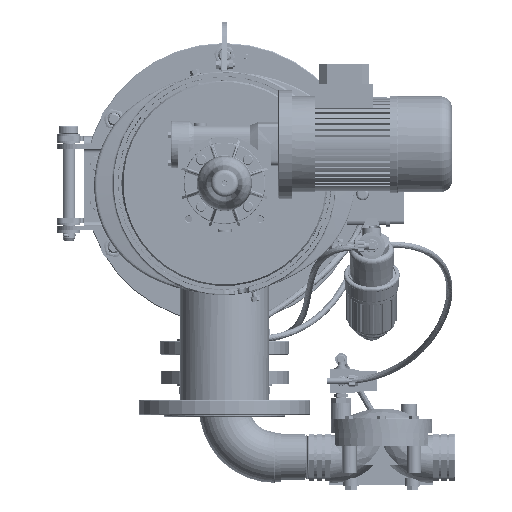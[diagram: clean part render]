
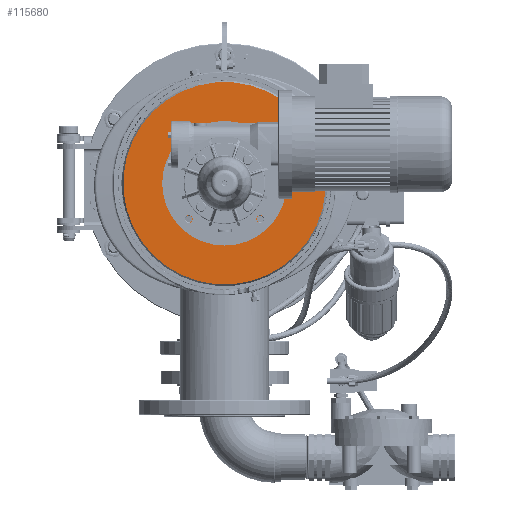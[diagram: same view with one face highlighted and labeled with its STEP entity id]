
A CAD part, left-side view. The second image highlights one B-rep face of the part: STEP entity #115680.
In plain terms, the highlighted planar face has unit normal (-1, 0, 0).
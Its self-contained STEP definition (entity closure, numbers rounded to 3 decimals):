
#1802 = DIRECTION ( 'NONE',  ( 1., 0., 0. ) ) ;
#24079 = CARTESIAN_POINT ( 'NONE',  ( -711.477, -43.195, 62.688 ) ) ;
#24583 = AXIS2_PLACEMENT_3D ( 'NONE', #297963, #313129, #473153 ) ;
#36010 = EDGE_CURVE ( 'NONE', #568687, #568687, #547819, .T. ) ;
#64370 = ORIENTED_EDGE ( 'NONE', *, *, #36010, .T. ) ;
#68257 = DIRECTION ( 'NONE',  ( 1., 0., 0. ) ) ;
#89549 = CIRCLE ( 'NONE', #1012609, 3.75 ) ;
#104955 = EDGE_LOOP ( 'NONE', ( #177095 ) ) ;
#115603 = CARTESIAN_POINT ( 'NONE',  ( -711.477, 74.361, -8.907 ) ) ;
#115680 = ADVANCED_FACE ( 'NONE', ( #143094, #1020209, #617846, #545345, #767652, #390537, #628001, #308077, #158265 ), #375314, .F. ) ;
#115930 = DIRECTION ( 'NONE',  ( 0., -0.707, 0.707 ) ) ;
#123875 = EDGE_LOOP ( 'NONE', ( #781165 ) ) ;
#143094 = FACE_BOUND ( 'NONE', #647652, .T. ) ;
#143955 = CARTESIAN_POINT ( 'NONE',  ( -711.477, -63.524, 128.979 ) ) ;
#151075 = CIRCLE ( 'NONE', #200444, 4.75 ) ;
#158265 = FACE_OUTER_BOUND ( 'NONE', #892472, .T. ) ;
#160586 = ORIENTED_EDGE ( 'NONE', *, *, #770572, .T. ) ;
#172441 = EDGE_CURVE ( 'NONE', #267711, #267711, #151075, .T. ) ;
#177095 = ORIENTED_EDGE ( 'NONE', *, *, #666247, .F. ) ;
#178698 = VERTEX_POINT ( 'NONE', #24079 ) ;
#190912 = AXIS2_PLACEMENT_3D ( 'NONE', #972266, #899945, #585136 ) ;
#200444 = AXIS2_PLACEMENT_3D ( 'NONE', #143955, #773606, #861170 ) ;
#251606 = CARTESIAN_POINT ( 'NONE',  ( -711.477, -28.626, 117.061 ) ) ;
#260228 = VERTEX_POINT ( 'NONE', #115603 ) ;
#267711 = VERTEX_POINT ( 'NONE', #504897 ) ;
#275173 = DIRECTION ( 'NONE',  ( -1., 0., 0. ) ) ;
#275786 = DIRECTION ( 'NONE',  ( 1., 0., 0. ) ) ;
#280579 = CARTESIAN_POINT ( 'NONE',  ( -711.477, -66.883, 40.414 ) ) ;
#285880 = AXIS2_PLACEMENT_3D ( 'NONE', #819038, #566305, #421633 ) ;
#297963 = CARTESIAN_POINT ( 'NONE',  ( -711.477, -109.486, -8.907 ) ) ;
#308077 = FACE_BOUND ( 'NONE', #104955, .T. ) ;
#311634 = EDGE_CURVE ( 'NONE', #968547, #968547, #942425, .T. ) ;
#312680 = EDGE_LOOP ( 'NONE', ( #865627 ) ) ;
#313129 = DIRECTION ( 'NONE',  ( 1., 0., 0. ) ) ;
#334231 = AXIS2_PLACEMENT_3D ( 'NONE', #837434, #275173, #919985 ) ;
#370414 = ORIENTED_EDGE ( 'NONE', *, *, #482810, .T. ) ;
#371507 = EDGE_CURVE ( 'NONE', #905128, #905128, #499891, .T. ) ;
#375314 = PLANE ( 'NONE',  #24583 ) ;
#383290 = DIRECTION ( 'NONE',  ( 0., -0.707, 0.707 ) ) ;
#390537 = FACE_BOUND ( 'NONE', #411876, .T. ) ;
#411876 = EDGE_LOOP ( 'NONE', ( #1020766 ) ) ;
#421633 = DIRECTION ( 'NONE',  ( 0., 0.707, -0.707 ) ) ;
#454724 = EDGE_LOOP ( 'NONE', ( #816250 ) ) ;
#455759 = CARTESIAN_POINT ( 'NONE',  ( -711.477, -40.543, 60.036 ) ) ;
#473153 = DIRECTION ( 'NONE',  ( 0., -0.707, 0.707 ) ) ;
#480003 = VERTEX_POINT ( 'NONE', #634901 ) ;
#482810 = EDGE_CURVE ( 'NONE', #260228, #260228, #779253, .T. ) ;
#494004 = VERTEX_POINT ( 'NONE', #251606 ) ;
#496397 = DIRECTION ( 'NONE',  ( 1., 0., 0. ) ) ;
#499891 = CIRCLE ( 'NONE', #714393, 4.75 ) ;
#504040 = CIRCLE ( 'NONE', #190912, 4.75 ) ;
#504897 = CARTESIAN_POINT ( 'NONE',  ( -711.477, -66.883, 132.338 ) ) ;
#545345 = FACE_BOUND ( 'NONE', #683511, .T. ) ;
#547819 = CIRCLE ( 'NONE', #679915, 3.75 ) ;
#566049 = CARTESIAN_POINT ( 'NONE',  ( -711.477, 25.041, 40.414 ) ) ;
#566305 = DIRECTION ( 'NONE',  ( -1., 0., 0. ) ) ;
#568687 = VERTEX_POINT ( 'NONE', #893648 ) ;
#573843 = DIRECTION ( 'NONE',  ( 0., -0.707, 0.707 ) ) ;
#585136 = DIRECTION ( 'NONE',  ( 0., -0.707, 0.707 ) ) ;
#585529 = CARTESIAN_POINT ( 'NONE',  ( -711.477, 25.041, 132.338 ) ) ;
#617846 = FACE_BOUND ( 'NONE', #123875, .T. ) ;
#628001 = FACE_BOUND ( 'NONE', #312680, .T. ) ;
#629308 = AXIS2_PLACEMENT_3D ( 'NONE', #811260, #496397, #573843 ) ;
#634901 = CARTESIAN_POINT ( 'NONE',  ( -711.477, 0.822, 64.632 ) ) ;
#647652 = EDGE_LOOP ( 'NONE', ( #160586 ) ) ;
#659705 = CIRCLE ( 'NONE', #824743, 3.75 ) ;
#666247 = EDGE_CURVE ( 'NONE', #480003, #480003, #929015, .T. ) ;
#679915 = AXIS2_PLACEMENT_3D ( 'NONE', #806458, #1802, #713845 ) ;
#683511 = EDGE_LOOP ( 'NONE', ( #64370 ) ) ;
#687692 = DIRECTION ( 'NONE',  ( 0., -0.707, 0.707 ) ) ;
#713845 = DIRECTION ( 'NONE',  ( 0., -0.707, 0.707 ) ) ;
#714393 = AXIS2_PLACEMENT_3D ( 'NONE', #997321, #68257, #687692 ) ;
#717619 = EDGE_CURVE ( 'NONE', #494004, #494004, #89549, .T. ) ;
#760590 = CARTESIAN_POINT ( 'NONE',  ( -711.477, -25.974, 114.41 ) ) ;
#760643 = VERTEX_POINT ( 'NONE', #585529 ) ;
#767652 = FACE_BOUND ( 'NONE', #964856, .T. ) ;
#770535 = DIRECTION ( 'NONE',  ( 1., 0., 0. ) ) ;
#770572 = EDGE_CURVE ( 'NONE', #760643, #760643, #504040, .T. ) ;
#773606 = DIRECTION ( 'NONE',  ( 1., 0., 0. ) ) ;
#779253 = CIRCLE ( 'NONE', #334231, 130. ) ;
#781165 = ORIENTED_EDGE ( 'NONE', *, *, #717619, .T. ) ;
#806458 = CARTESIAN_POINT ( 'NONE',  ( -711.477, 13.83, 74.605 ) ) ;
#811260 = CARTESIAN_POINT ( 'NONE',  ( -711.477, 28.399, 37.055 ) ) ;
#811704 = ORIENTED_EDGE ( 'NONE', *, *, #311634, .T. ) ;
#816250 = ORIENTED_EDGE ( 'NONE', *, *, #172441, .T. ) ;
#819038 = CARTESIAN_POINT ( 'NONE',  ( -711.477, -17.562, 83.017 ) ) ;
#824743 = AXIS2_PLACEMENT_3D ( 'NONE', #455759, #770535, #383290 ) ;
#837434 = CARTESIAN_POINT ( 'NONE',  ( -711.477, -17.562, 83.017 ) ) ;
#861170 = DIRECTION ( 'NONE',  ( 0., -0.707, 0.707 ) ) ;
#865627 = ORIENTED_EDGE ( 'NONE', *, *, #914964, .T. ) ;
#892472 = EDGE_LOOP ( 'NONE', ( #370414 ) ) ;
#893648 = CARTESIAN_POINT ( 'NONE',  ( -711.477, 11.178, 77.257 ) ) ;
#899945 = DIRECTION ( 'NONE',  ( 1., 0., 0. ) ) ;
#905128 = VERTEX_POINT ( 'NONE', #280579 ) ;
#914964 = EDGE_CURVE ( 'NONE', #178698, #178698, #659705, .T. ) ;
#919985 = DIRECTION ( 'NONE',  ( 0., 0.707, -0.707 ) ) ;
#929015 = CIRCLE ( 'NONE', #285880, 26. ) ;
#942425 = CIRCLE ( 'NONE', #629308, 4.75 ) ;
#964856 = EDGE_LOOP ( 'NONE', ( #811704 ) ) ;
#968547 = VERTEX_POINT ( 'NONE', #566049 ) ;
#972266 = CARTESIAN_POINT ( 'NONE',  ( -711.477, 28.399, 128.979 ) ) ;
#997321 = CARTESIAN_POINT ( 'NONE',  ( -711.477, -63.524, 37.055 ) ) ;
#1012609 = AXIS2_PLACEMENT_3D ( 'NONE', #760590, #275786, #115930 ) ;
#1020209 = FACE_BOUND ( 'NONE', #454724, .T. ) ;
#1020766 = ORIENTED_EDGE ( 'NONE', *, *, #371507, .T. ) ;
